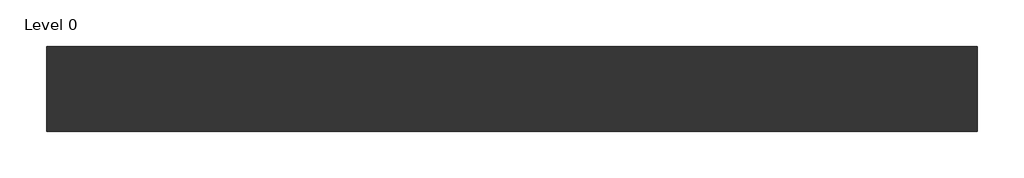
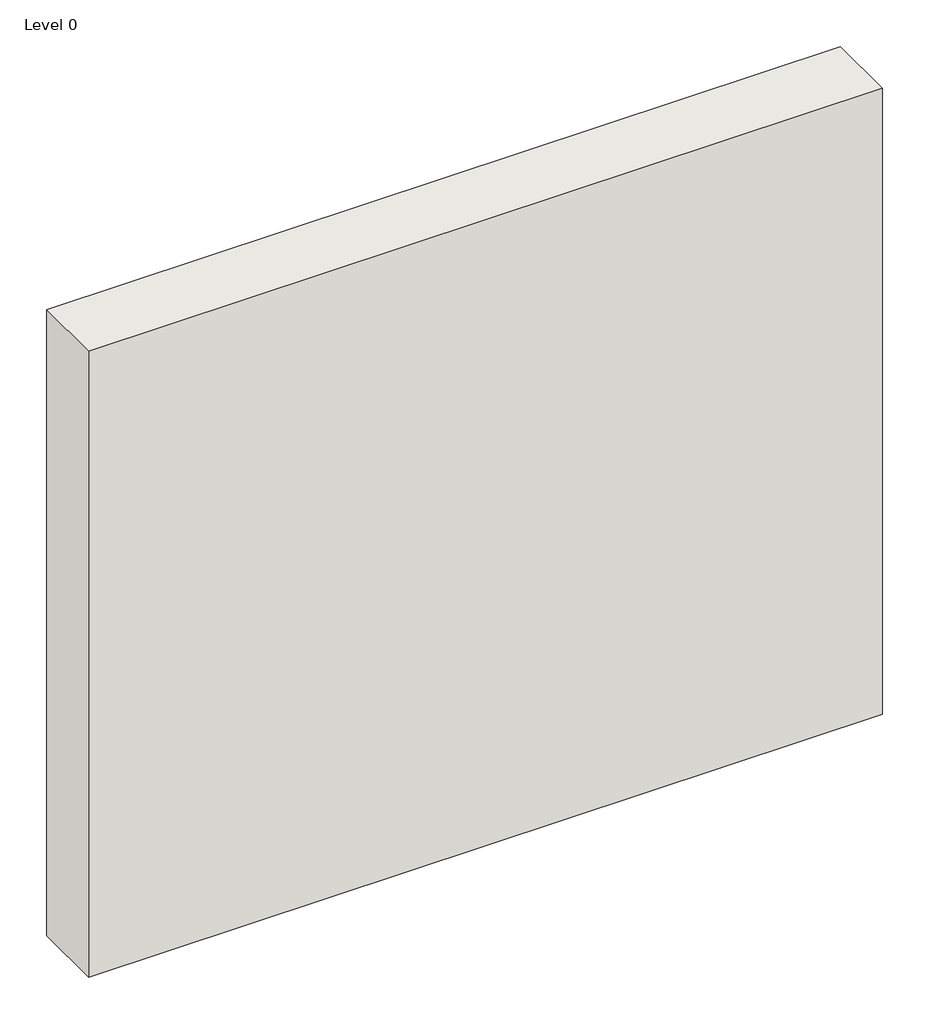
# One storey: 1 wall.
"""IFC4 building model written with IfcOpenShell, lengths in millimetres."""

from ifc_helpers import new_model, si_unit, origin, origin_with_axes, place, context, project, spatial, polyline, outline, extrude, element, save

model = new_model("IFC4")

# Units and contexts
model_context = context("Model", 3, world=origin())
ifc_project = project(units=[si_unit("LENGTHUNIT", "METRE", prefix="MILLI")], contexts=[model_context])

# Site, building, storey
site = spatial("IfcSite", under=ifc_project)
building = spatial("IfcBuilding", under=site)
storey = spatial("IfcBuildingStorey", under=building, Name="Level 0", Elevation=0.0)

# Wall
placement = place(None, origin())
element("IfcWall", 1, ObjectType="A216005 - GypWall QUIET IWL", at=placement, inside=storey, context=model_context, shape_type="SweptSolid", body=[
    extrude(outline(polyline([(2116.0807354, 456.2205641), (-883.9192646, 456.2205641), (-883.9192646, 731.2205641), (2116.0807354, 731.2205641), (2116.0807354, 456.2205641)])), origin_with_axes(), (0.0, 0.0, 1.0), 2500.0),
])

save(model, "model.ifc")
